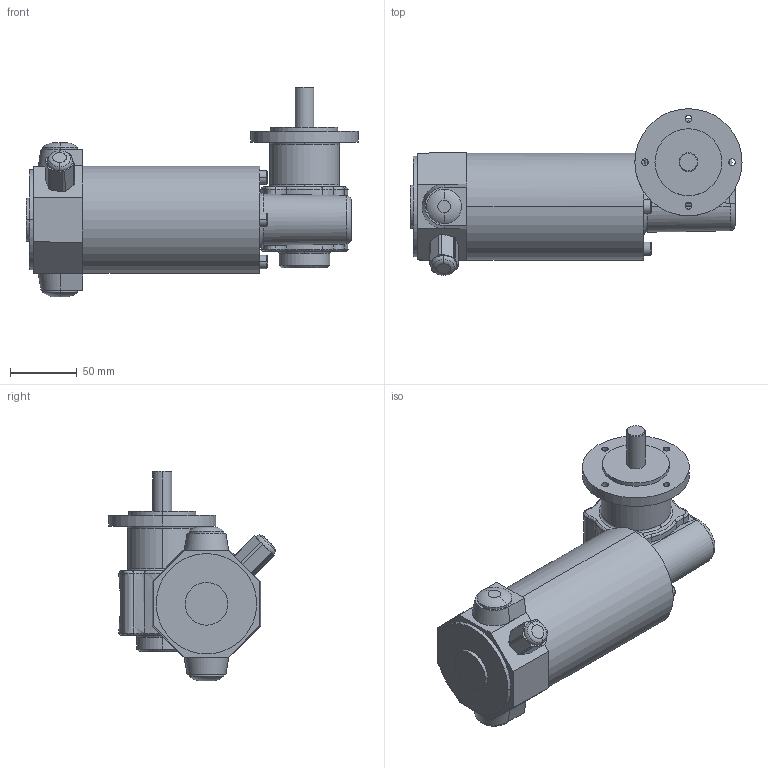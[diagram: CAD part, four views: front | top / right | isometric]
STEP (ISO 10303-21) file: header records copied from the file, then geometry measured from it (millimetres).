
FILE_DESCRIPTION(('OneSpaceDesigner STEP Export'),'2;1');
FILE_NAME('EPG13_GF133.stp','2008-07-10T 8:28:48',(''),(''),'OneSpace Designer STEP processor (Jan. 2003) for AP214(CD)(Solid Model)','OneSpace Designer 12.01D 09-Jul-2004 (C) CoCreate Software GmbH','');
FILE_SCHEMA(('AUTOMOTIVE_DESIGN_CC2 {1 2 10303 214 -1 1 5 1}'));
Length unit declared in the file: millimetre
Products named in the file (2): EPG13_GF133
Assembly tree (1 placements, depth 2):
  EPG13_GF133
    EPG13_GF133
Bounding box: 248 x 124.4 x 156.5 mm (x, y, z)
Volume: 1272849.8 mm3; surface area: 93863.8 mm2
Topology: 1 solids, 1 shells, 185 faces, 466 edges, 298 vertices
Faces by surface type: plane 49, cylinder 46, bspline 41, extrusion 25, torus 14, cone 10
Entity records: 16064 total; most frequent: CARTESIAN_POINT 12350, ORIENTED_EDGE 932, DIRECTION 486, EDGE_CURVE 466, VERTEX_POINT 298, EDGE_LOOP 208, FACE_OUTER_BOUND 185, ADVANCED_FACE 185
